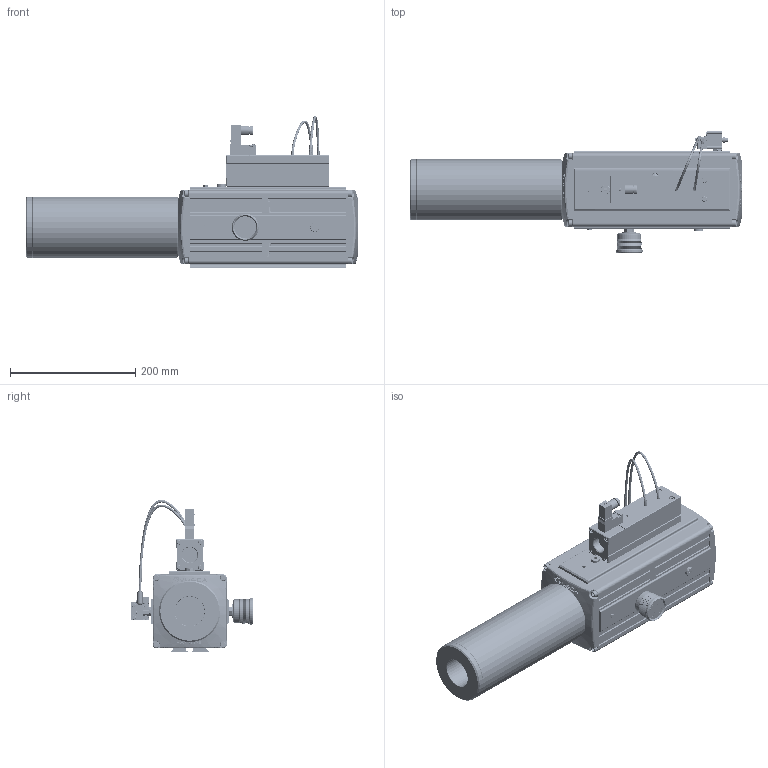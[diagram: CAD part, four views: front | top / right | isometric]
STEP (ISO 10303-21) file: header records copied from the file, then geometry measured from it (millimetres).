
FILE_DESCRIPTION( ( 'Unknown' ), '1' );
FILE_NAME( 'C:/Documents and Settings/Administrator/官帕 拳搁/MPM 荐沥霸捞瘤/MPM303X10-03S-ASV-A3-DL.stp', 'Unknown', ( 'Unknown' ), ( 'Unknown' ), 'PSStep 10.0', 'Unknown', ' ' );
FILE_SCHEMA( ( 'AUTOMOTIVE_DESIGN { 1 0 10303 214 1 1 1 1 }' ) );
Length unit declared in the file: millimetre
Products named in the file (29): END CAP; SILENCER_0_0_1; Assem1; VPS-01-1_1; VMS34-B-ASV(DIM)_1; DIN Valve_1_1; FITTING_1; BODY-A(ASV)(DIM)_1; BODY-B-ASV(DIM)_1; END CAP-2_0_1; VPS-01_1; VPS-01(H)_1; COVER_0_0_1; ELEMENT_7_1; SPONGE_7_1; END CAP_7_1; M6-Bolt_10_1; VTP18_13_1; END CAP-212_10_1; VTP-M5_13_1; red_10_1; Air Cirquit_10_1; Double Tread 18M-18M_2_1; 1_1_0; 2_1; Body(re1)(dim)_2_1; VTP-M5_17; VTP18_17; 1
Bounding box: 530 x 195.8 x 242.59 mm (x, y, z)
Volume: 13698853.6 mm3; surface area: 2194504.7 mm2
Topology: 75 solids, 81 shells, 7474 faces, 18916 edges, 12270 vertices
Faces by surface type: plane 4672, cylinder 1629, cone 450, extrusion 271, torus 177, bspline 146, sphere 120, revolution 9
Full cylindrical faces by diameter (mm): 0.518 x2, 0.884 x5, 1 x5, 1.008 x9, 1.5 x6, 1.8 x6, 1.9 x5, 2 x5, 2.2 x6, 2.3 x14, 2.5 x14, 3 x11, 3.2 x6, 3.4 x12, 4 x12, 4.075 x4, 4.2 x56, 4.336 x3, 4.5 x12, 4.552 x4, 4.619 x5, 5 x9, 5.2 x12, 5.5 x17, 6 x13, 6.064 x3, 6.337 x4, 6.5 x20, 6.535 x3, 6.8 x14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
Entity records: 121357 total; most frequent: CARTESIAN_POINT 30617, DIRECTION 13523, ORIENTED_EDGE 13366, EDGE_CURVE 6683, VERTEX_POINT 4581, AXIS2_PLACEMENT_3D 4577, VECTOR 4366, LINE 4268
